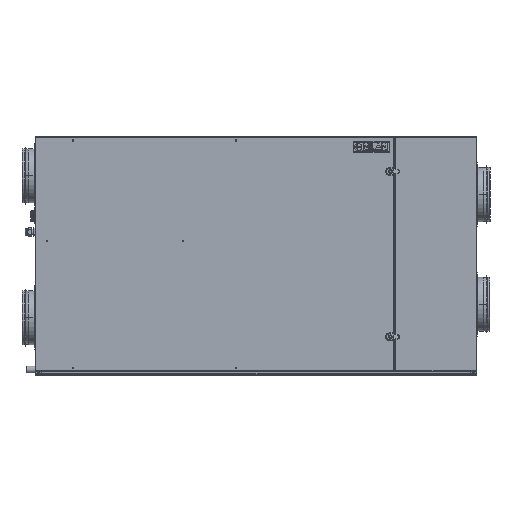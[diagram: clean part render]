
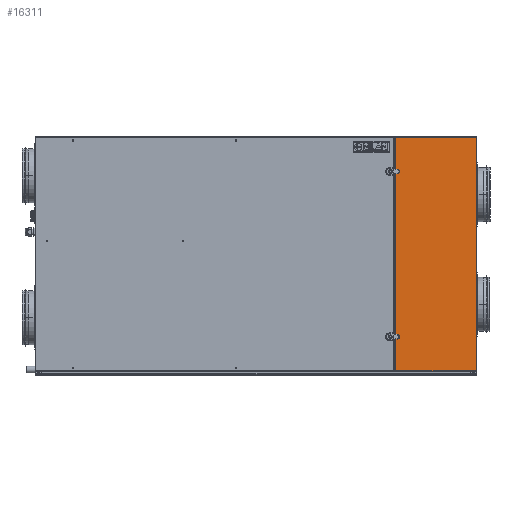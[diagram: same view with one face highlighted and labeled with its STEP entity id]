
A CAD part, top view. The second image highlights one B-rep face of the part: STEP entity #16311.
In plain terms, the highlighted planar face has unit normal (0, 0, 1).
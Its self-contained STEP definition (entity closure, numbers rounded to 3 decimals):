
#1527 = VECTOR ( 'NONE', #56036, 1000. ) ;
#1685 = LINE ( 'NONE', #42528, #29886 ) ;
#2204 = PLANE ( 'NONE',  #48150 ) ;
#8760 = ORIENTED_EDGE ( 'NONE', *, *, #56492, .T. ) ;
#10846 = DIRECTION ( 'NONE',  ( 0., 1., 0. ) ) ;
#10878 = LINE ( 'NONE', #47312, #47813 ) ;
#16198 = EDGE_CURVE ( 'NONE', #30648, #41862, #31844, .T. ) ;
#16311 = ADVANCED_FACE ( 'NONE', ( #19698 ), #2204, .F. ) ;
#19698 = FACE_OUTER_BOUND ( 'NONE', #42510, .T. ) ;
#19923 = CARTESIAN_POINT ( 'NONE',  ( 4100., 320.646, 294. ) ) ;
#20657 = CARTESIAN_POINT ( 'NONE',  ( 648.2, -365.754, 294. ) ) ;
#21244 = CARTESIAN_POINT ( 'NONE',  ( 648.2, 320.646, 294. ) ) ;
#23427 = ORIENTED_EDGE ( 'NONE', *, *, #16198, .T. ) ;
#25443 = VECTOR ( 'NONE', #45484, 1000. ) ;
#26442 = CARTESIAN_POINT ( 'NONE',  ( 410.9, -365.754, 294. ) ) ;
#27385 = CARTESIAN_POINT ( 'NONE',  ( 410.9, 3772.446, 294. ) ) ;
#27572 = ORIENTED_EDGE ( 'NONE', *, *, #50029, .T. ) ;
#28274 = CARTESIAN_POINT ( 'NONE',  ( 409.1, 563.348, 294. ) ) ;
#29886 = VECTOR ( 'NONE', #10846, 1000. ) ;
#30648 = VERTEX_POINT ( 'NONE', #49577 ) ;
#31844 = LINE ( 'NONE', #27385, #25443 ) ;
#37446 = DIRECTION ( 'NONE',  ( -1., 0., 0. ) ) ;
#37530 = DIRECTION ( 'NONE',  ( 1., 0., 0. ) ) ;
#39848 = ORIENTED_EDGE ( 'NONE', *, *, #57354, .T. ) ;
#41862 = VERTEX_POINT ( 'NONE', #26442 ) ;
#42510 = EDGE_LOOP ( 'NONE', ( #27572, #39848, #23427, #8760 ) ) ;
#42528 = CARTESIAN_POINT ( 'NONE',  ( 648.2, -3817.554, 294. ) ) ;
#45484 = DIRECTION ( 'NONE',  ( 0., -1., 0. ) ) ;
#47312 = CARTESIAN_POINT ( 'NONE',  ( -3040.9, -365.754, 294. ) ) ;
#47813 = VECTOR ( 'NONE', #37530, 1000. ) ;
#48150 = AXIS2_PLACEMENT_3D ( 'NONE', #28274, #51668, #37446 ) ;
#49577 = CARTESIAN_POINT ( 'NONE',  ( 410.9, 320.646, 294. ) ) ;
#50029 = EDGE_CURVE ( 'NONE', #56690, #52163, #1685, .T. ) ;
#51668 = DIRECTION ( 'NONE',  ( 0., 0., -1. ) ) ;
#52163 = VERTEX_POINT ( 'NONE', #21244 ) ;
#55475 = LINE ( 'NONE', #19923, #1527 ) ;
#56036 = DIRECTION ( 'NONE',  ( -1., 0., 0. ) ) ;
#56492 = EDGE_CURVE ( 'NONE', #41862, #56690, #10878, .T. ) ;
#56690 = VERTEX_POINT ( 'NONE', #20657 ) ;
#57354 = EDGE_CURVE ( 'NONE', #52163, #30648, #55475, .T. ) ;
